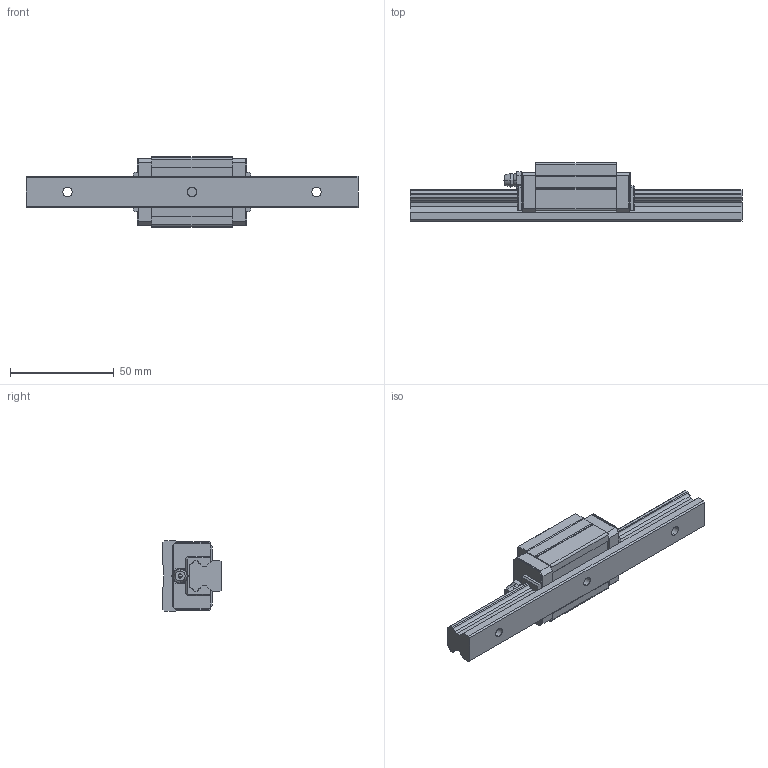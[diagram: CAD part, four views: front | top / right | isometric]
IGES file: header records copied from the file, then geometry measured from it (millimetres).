
Start section: SolidWorks IGES file using analytic representation for surfaces
Global section: file name: D:\Qsync\EOS Design B.V\Projecten\LM Systems\Models HSV\FINISHED\HSV15RSS.IGS; native system: SolidWorks 2016; preprocessor: SolidWorks 2016; author: EOS; date: 160314.144204; units: millimetre
Bounding box: 160 x 28 x 34 mm (x, y, z)
Surface area: 20318.5 mm2 (no closed solid volume)
Topology: 0 solids, 0 shells, 227 faces, 2134 edges, 2124 vertices
Faces by surface type: bspline 159, revolution 68
